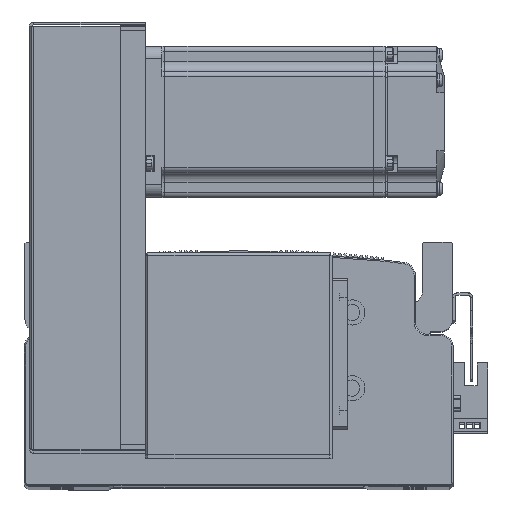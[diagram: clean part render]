
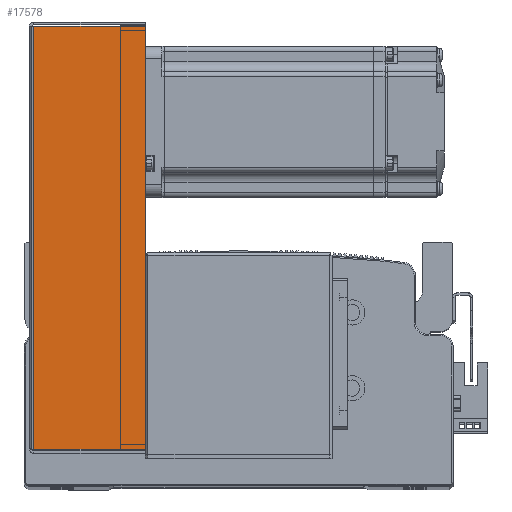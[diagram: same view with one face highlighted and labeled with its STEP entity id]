
A CAD part, top view. The second image highlights one B-rep face of the part: STEP entity #17578.
In plain terms, the highlighted planar face has unit normal (0, 0, 1) as drawn and (0, 0, -1) by its records, which use the part's own axes.
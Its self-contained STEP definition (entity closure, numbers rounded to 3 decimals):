
#11240 = ORIENTED_EDGE ( 'NONE', *, *, #78587, .T. ) ;
#11241 = ORIENTED_EDGE ( 'NONE', *, *, #77920, .F. ) ;
#11248 = ORIENTED_EDGE ( 'NONE', *, *, #78483, .T. ) ;
#11319 = ORIENTED_EDGE ( 'NONE', *, *, #77903, .F. ) ;
#17578 = ADVANCED_FACE ( 'NONE', ( #25056 ), #27792, .F. ) ;
#25056 = FACE_OUTER_BOUND ( 'NONE', #73882, .T. ) ;
#27792 = PLANE ( 'NONE',  #28991 ) ;
#27820 = DIRECTION ( 'NONE',  ( 0., 0., 1. ) ) ;
#27872 = CARTESIAN_POINT ( 'NONE',  ( 0., 0., -40.5 ) ) ;
#27880 = DIRECTION ( 'NONE',  ( 0., -1., 0. ) ) ;
#28991 = AXIS2_PLACEMENT_3D ( 'NONE', #27872, #27820, #27880 ) ;
#55545 = CARTESIAN_POINT ( 'NONE',  ( -83.793, 45., -40.5 ) ) ;
#55577 = CARTESIAN_POINT ( 'NONE',  ( 83.793, 45., -40.5 ) ) ;
#55593 = CARTESIAN_POINT ( 'NONE',  ( 83.793, 0.737, -40.5 ) ) ;
#55652 = CARTESIAN_POINT ( 'NONE',  ( -83.793, 0.737, -40.5 ) ) ;
#64308 = DIRECTION ( 'NONE',  ( 1., 0., 0. ) ) ;
#64314 = CARTESIAN_POINT ( 'NONE',  ( 83.793, 0., -40.5 ) ) ;
#64318 = CARTESIAN_POINT ( 'NONE',  ( 0., 0.737, -40.5 ) ) ;
#64335 = DIRECTION ( 'NONE',  ( 0., 1., 0. ) ) ;
#64779 = LINE ( 'NONE', #64318, #64786 ) ;
#64786 = VECTOR ( 'NONE', #64308, 1000. ) ;
#64811 = VECTOR ( 'NONE', #64335, 1000. ) ;
#64836 = LINE ( 'NONE', #64314, #64811 ) ;
#65071 = LINE ( 'NONE', #66272, #65112 ) ;
#65112 = VECTOR ( 'NONE', #66281, 1000. ) ;
#65179 = LINE ( 'NONE', #66367, #65190 ) ;
#65190 = VECTOR ( 'NONE', #66372, 1000. ) ;
#66272 = CARTESIAN_POINT ( 'NONE',  ( 84.5, 45., -40.5 ) ) ;
#66281 = DIRECTION ( 'NONE',  ( 1., 0., 0. ) ) ;
#66367 = CARTESIAN_POINT ( 'NONE',  ( -83.793, 0., -40.5 ) ) ;
#66372 = DIRECTION ( 'NONE',  ( 0., 1., 0. ) ) ;
#69292 = VERTEX_POINT ( 'NONE', #55545 ) ;
#69320 = VERTEX_POINT ( 'NONE', #55577 ) ;
#69348 = VERTEX_POINT ( 'NONE', #55593 ) ;
#69382 = VERTEX_POINT ( 'NONE', #55652 ) ;
#73882 = EDGE_LOOP ( 'NONE', ( #11241, #11240, #11248, #11319 ) ) ;
#77903 = EDGE_CURVE ( 'NONE', #69348, #69320, #64836, .T. ) ;
#77920 = EDGE_CURVE ( 'NONE', #69382, #69348, #64779, .T. ) ;
#78483 = EDGE_CURVE ( 'NONE', #69292, #69320, #65071, .T. ) ;
#78587 = EDGE_CURVE ( 'NONE', #69382, #69292, #65179, .T. ) ;
